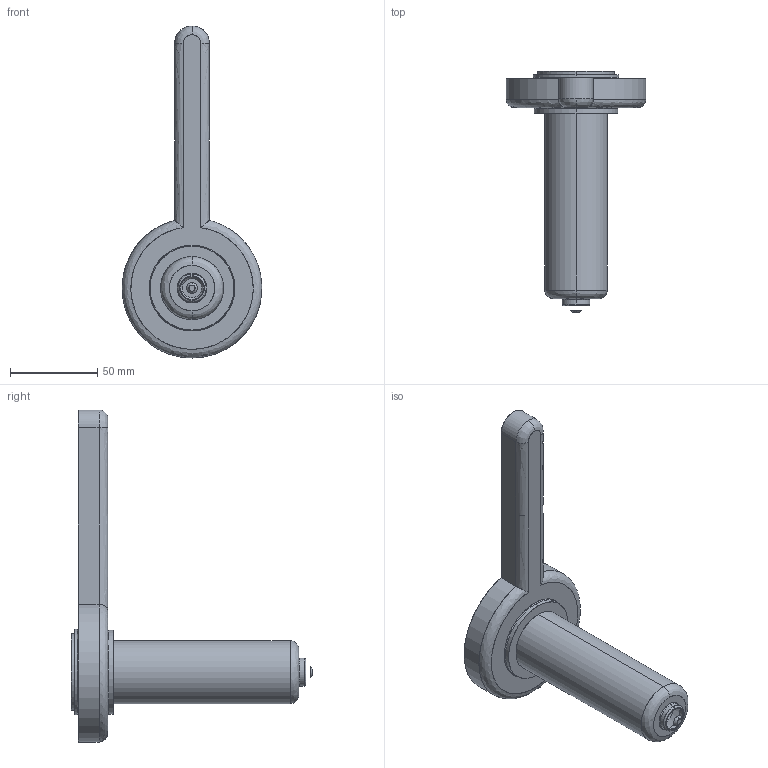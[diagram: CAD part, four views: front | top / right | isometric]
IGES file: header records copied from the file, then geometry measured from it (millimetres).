
Start section: SolidWorks IGES file using analytic representation for surfaces
Global section: file name: C:\Documents and Settings\ws-20\Desktop\TEM\Sede UGEP5003-S-A C-114 L-136 Ød-3.5.IGS; native system: SolidWorks 2012; preprocessor: SolidWorks 2012; author: ws-20; date: 120426.141911; units: millimetre
Bounding box: 79.97 x 138.29 x 190 mm (x, y, z)
Surface area: 34253.3 mm2 (no closed solid volume)
Topology: 0 solids, 0 shells, 44 faces, 952 edges, 952 vertices
Faces by surface type: revolution 27, bspline 17
